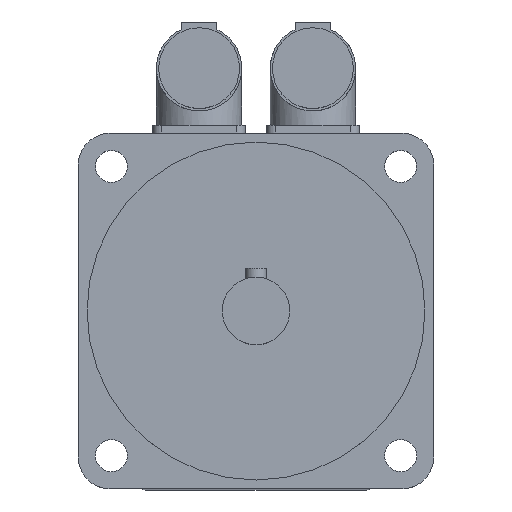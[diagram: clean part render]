
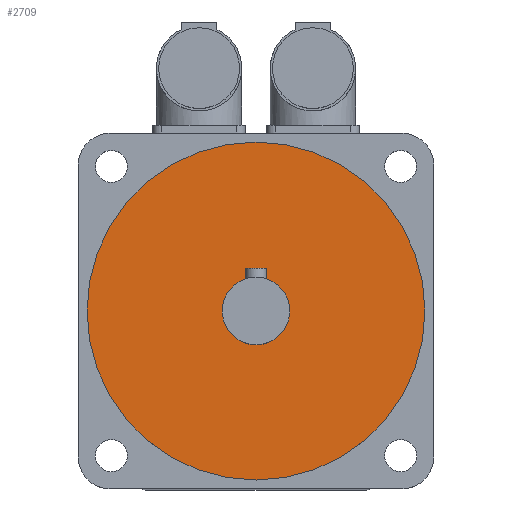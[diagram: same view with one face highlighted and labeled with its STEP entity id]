
A CAD part, top view. The second image highlights one B-rep face of the part: STEP entity #2709.
In plain terms, the highlighted planar face has unit normal (0, 0, 1).
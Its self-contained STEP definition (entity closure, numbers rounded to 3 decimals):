
#44=FACE_BOUND('',#455,.T.);
#72=CIRCLE('',#2874,9.5);
#73=CIRCLE('',#2877,47.5);
#289=FACE_OUTER_BOUND('',#454,.T.);
#454=EDGE_LOOP('',(#1842));
#455=EDGE_LOOP('',(#1843));
#1150=VERTEX_POINT('',#4096);
#1151=VERTEX_POINT('',#4100);
#1420=EDGE_CURVE('',#1150,#1150,#72,.T.);
#1421=EDGE_CURVE('',#1151,#1151,#73,.T.);
#1842=ORIENTED_EDGE('',*,*,#1421,.T.);
#1843=ORIENTED_EDGE('',*,*,#1420,.T.);
#2629=PLANE('',#2879);
#2709=ADVANCED_FACE('',(#289,#44),#2629,.F.);
#2874=AXIS2_PLACEMENT_3D('',#4097,#3197,#3198);
#2877=AXIS2_PLACEMENT_3D('',#4101,#3203,#3204);
#2879=AXIS2_PLACEMENT_3D('',#4104,#3207,#3208);
#3197=DIRECTION('center_axis',(0.,0.,-1.));
#3198=DIRECTION('ref_axis',(-1.,0.,0.));
#3203=DIRECTION('center_axis',(0.,0.,
1.));
#3204=DIRECTION('ref_axis',(-1.,0.,0.));
#3207=DIRECTION('center_axis',(0.,0.,-1.));
#3208=DIRECTION('ref_axis',(-1.,0.,0.));
#4096=CARTESIAN_POINT('',(9.5,0.,162.));
#4097=CARTESIAN_POINT('Origin',(0.,0.,
162.));
#4100=CARTESIAN_POINT('',(47.5,0.,162.));
#4101=CARTESIAN_POINT('Origin',(0.,0.,
162.));
#4104=CARTESIAN_POINT('Origin',(0.,0.,
162.));
